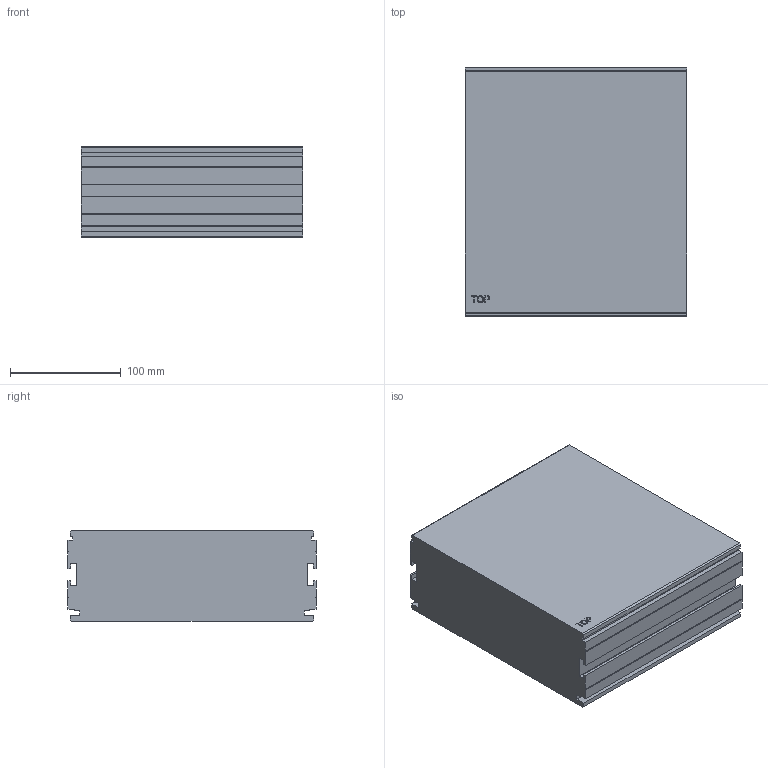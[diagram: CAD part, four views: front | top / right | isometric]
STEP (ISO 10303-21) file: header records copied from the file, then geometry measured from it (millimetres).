
FILE_DESCRIPTION((''),'2;1');
FILE_NAME('C:\Vault Klient\Projekt\Koncept konstruktion\Serie 220 Balk\220-1000.stp','2009-11-27T14:53:27',('Mathias'),(''),'Autodesk Inventor 2010','Autodesk Inventor 2010','');
FILE_SCHEMA(('AUTOMOTIVE_DESIGN { 1 0 10303 214 1 1 1 1 }'));
Length unit declared in the file: millimetre
Products named in the file (1): 220-1000
Bounding box: 200 x 224 x 81.5 mm (x, y, z)
Volume: 3559552.8 mm3; surface area: 179930.6 mm2
Topology: 1 solids, 1 shells, 93 faces, 258 edges, 172 vertices
Faces by surface type: plane 79, bspline 14
Entity records: 3119 total; most frequent: CARTESIAN_POINT 766, ORIENTED_EDGE 516, DIRECTION 390, EDGE_CURVE 258, VECTOR 230, LINE 230, VERTEX_POINT 172, EDGE_LOOP 98
